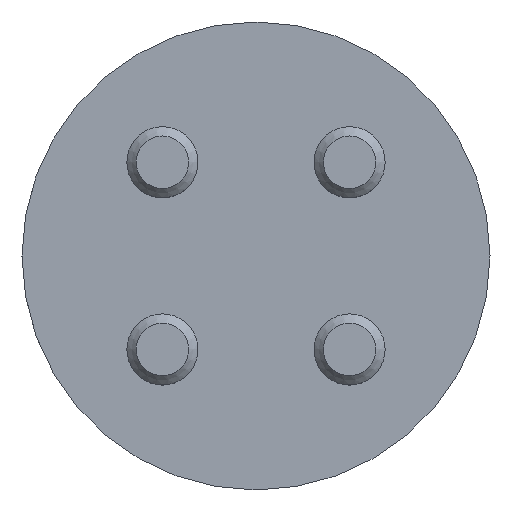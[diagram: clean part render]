
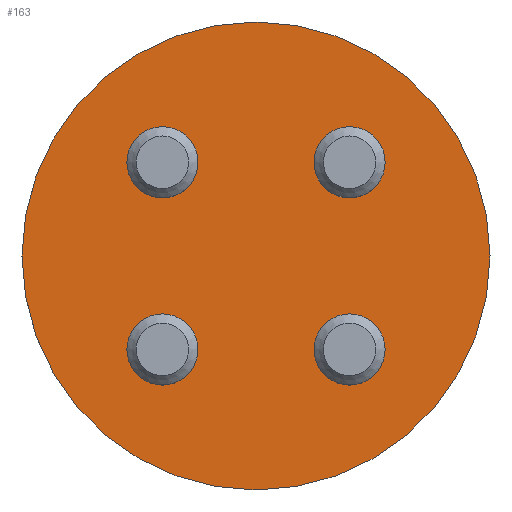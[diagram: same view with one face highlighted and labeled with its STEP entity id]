
A CAD part, top view. The second image highlights one B-rep face of the part: STEP entity #163.
In plain terms, the highlighted planar face has unit normal (0, 0, 1).
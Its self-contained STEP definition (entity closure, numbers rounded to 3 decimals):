
#23=ORIENTED_EDGE('',*,*,#53,.F.);
#24=ORIENTED_EDGE('',*,*,#54,.F.);
#25=ORIENTED_EDGE('',*,*,#55,.F.);
#26=ORIENTED_EDGE('',*,*,#56,.F.);
#27=ORIENTED_EDGE('',*,*,#57,.T.);
#53=EDGE_CURVE('',#68,#68,#83,.T.);
#54=EDGE_CURVE('',#69,#69,#84,.T.);
#55=EDGE_CURVE('',#70,#70,#85,.T.);
#56=EDGE_CURVE('',#71,#71,#86,.T.);
#57=EDGE_CURVE('',#72,#72,#87,.F.);
#68=VERTEX_POINT('',#284);
#69=VERTEX_POINT('',#286);
#70=VERTEX_POINT('',#288);
#71=VERTEX_POINT('',#290);
#72=VERTEX_POINT('',#292);
#83=CIRCLE('',#193,1.9);
#84=CIRCLE('',#194,1.9);
#85=CIRCLE('',#195,1.9);
#86=CIRCLE('',#196,1.9);
#87=CIRCLE('',#197,12.5);
#97=EDGE_LOOP('',(#23));
#98=EDGE_LOOP('',(#24));
#99=EDGE_LOOP('',(#25));
#100=EDGE_LOOP('',(#26));
#101=EDGE_LOOP('',(#27));
#127=FACE_BOUND('',#97,.T.);
#128=FACE_BOUND('',#98,.T.);
#129=FACE_BOUND('',#99,.T.);
#130=FACE_BOUND('',#100,.T.);
#131=FACE_BOUND('',#101,.T.);
#157=PLANE('',#192);
#163=ADVANCED_FACE('',(#127,#128,#129,#130,#131),#157,.F.);
#192=AXIS2_PLACEMENT_3D('',#282,#223,#224);
#193=AXIS2_PLACEMENT_3D('',#283,#225,#226);
#194=AXIS2_PLACEMENT_3D('',#285,#227,#228);
#195=AXIS2_PLACEMENT_3D('',#287,#229,#230);
#196=AXIS2_PLACEMENT_3D('',#289,#231,#232);
#197=AXIS2_PLACEMENT_3D('',#291,#233,#234);
#223=DIRECTION('',(0.,0.,-1.));
#224=DIRECTION('',(-1.,0.,0.));
#225=DIRECTION('',(0.,0.,1.));
#226=DIRECTION('',(1.,0.,0.));
#227=DIRECTION('',(0.,0.,1.));
#228=DIRECTION('',(1.,0.,0.));
#229=DIRECTION('',(0.,0.,1.));
#230=DIRECTION('',(1.,0.,0.));
#231=DIRECTION('',(0.,0.,1.));
#232=DIRECTION('',(1.,0.,0.));
#233=DIRECTION('',(0.,0.,-1.));
#234=DIRECTION('',(-1.,0.,0.));
#282=CARTESIAN_POINT('',(51.244,37.739,37.25));
#283=CARTESIAN_POINT('',(46.244,78.55,37.25));
#284=CARTESIAN_POINT('',(48.144,78.55,37.25));
#285=CARTESIAN_POINT('',(56.244,78.55,37.25));
#286=CARTESIAN_POINT('',(58.144,78.55,37.25));
#287=CARTESIAN_POINT('',(56.244,68.55,37.25));
#288=CARTESIAN_POINT('',(58.144,68.55,37.25));
#289=CARTESIAN_POINT('',(46.244,68.55,37.25));
#290=CARTESIAN_POINT('',(48.144,68.55,37.25));
#291=CARTESIAN_POINT('',(51.244,73.55,37.25));
#292=CARTESIAN_POINT('',(38.744,73.55,37.25));
